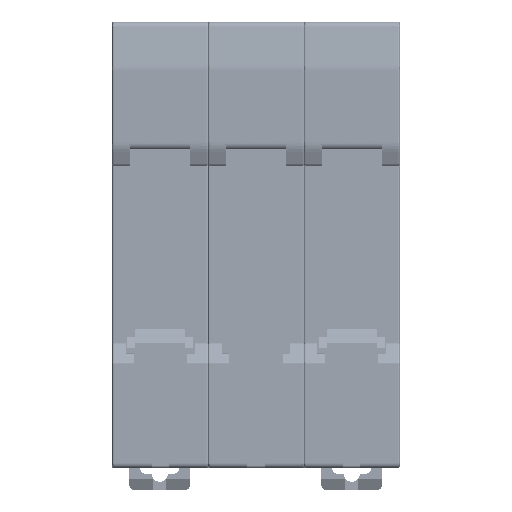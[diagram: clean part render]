
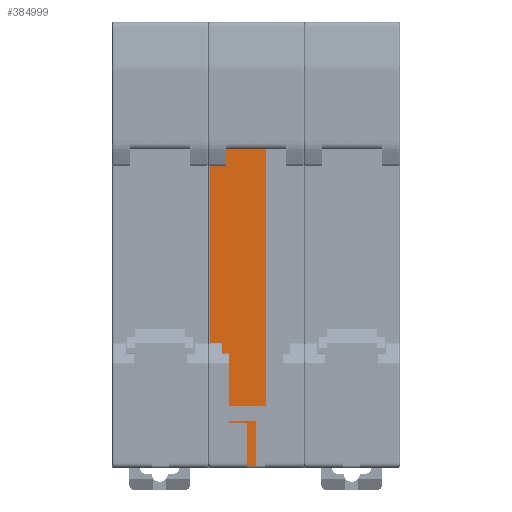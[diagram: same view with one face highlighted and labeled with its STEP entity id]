
A CAD part, left-side view. The second image highlights one B-rep face of the part: STEP entity #384999.
In plain terms, the highlighted planar face has unit normal (-1, 0, 0).
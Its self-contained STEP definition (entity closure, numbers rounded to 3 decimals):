
#5260 = EDGE_CURVE ( 'NONE', #122984, #138243, #166637, .T. ) ;
#7498 = DIRECTION ( 'NONE',  ( 0., 1., 0. ) ) ;
#12509 = ORIENTED_EDGE ( 'NONE', *, *, #206382, .F. ) ;
#12949 = CARTESIAN_POINT ( 'NONE',  ( 5.5, 32.1, 8.9 ) ) ;
#13615 = CARTESIAN_POINT ( 'NONE',  ( 5.5, 33.5, 12.25 ) ) ;
#18663 = CARTESIAN_POINT ( 'NONE',  ( 5.5, 32.4, 15.4 ) ) ;
#18811 = CARTESIAN_POINT ( 'NONE',  ( 5.5, 24.3, 10.5 ) ) ;
#19107 = LINE ( 'NONE', #55439, #162728 ) ;
#24347 = CARTESIAN_POINT ( 'NONE',  ( 5.5, 32.1, -0.5 ) ) ;
#28159 = ORIENTED_EDGE ( 'NONE', *, *, #5260, .F. ) ;
#28481 = CARTESIAN_POINT ( 'NONE',  ( 5.5, 32.1, 40. ) ) ;
#32769 = EDGE_CURVE ( 'NONE', #166031, #363314, #219196, .T. ) ;
#34618 = CARTESIAN_POINT ( 'NONE',  ( 5.5, 35., 22. ) ) ;
#38339 = ORIENTED_EDGE ( 'NONE', *, *, #160959, .F. ) ;
#39033 = LINE ( 'NONE', #158600, #281306 ) ;
#41282 = LINE ( 'NONE', #164834, #91829 ) ;
#46443 = CARTESIAN_POINT ( 'NONE',  ( 5.5, 34.6, 57.6 ) ) ;
#47387 = VECTOR ( 'NONE', #7498, 1000. ) ;
#47654 = EDGE_CURVE ( 'NONE', #222955, #356659, #304240, .T. ) ;
#50056 = VERTEX_POINT ( 'NONE', #218806 ) ;
#55439 = CARTESIAN_POINT ( 'NONE',  ( 5.5, 35., 10.5 ) ) ;
#64079 = CARTESIAN_POINT ( 'NONE',  ( 5.5, 35., 57.6 ) ) ;
#64849 = DIRECTION ( 'NONE',  ( 0., 0., -1. ) ) ;
#65345 = CARTESIAN_POINT ( 'NONE',  ( 5.5, 26.1, 40. ) ) ;
#66345 = CARTESIAN_POINT ( 'NONE',  ( 5.5, 57.843, -0.5 ) ) ;
#69468 = DIRECTION ( 'NONE',  ( 0., 0., 1. ) ) ;
#70731 = DIRECTION ( 'NONE',  ( 0., 0., 1. ) ) ;
#75525 = DIRECTION ( 'NONE',  ( 0., 0., 1. ) ) ;
#86373 = ORIENTED_EDGE ( 'NONE', *, *, #47654, .T. ) ;
#88454 = ORIENTED_EDGE ( 'NONE', *, *, #188753, .F. ) ;
#91789 = DIRECTION ( 'NONE',  ( 0., 0., 1. ) ) ;
#91829 = VECTOR ( 'NONE', #258104, 1000. ) ;
#96146 = CARTESIAN_POINT ( 'NONE',  ( 5.5, 24.3, 21.4 ) ) ;
#96685 = LINE ( 'NONE', #220148, #282606 ) ;
#100223 = ORIENTED_EDGE ( 'NONE', *, *, #360778, .F. ) ;
#100833 = ORIENTED_EDGE ( 'NONE', *, *, #170610, .F. ) ;
#102035 = CARTESIAN_POINT ( 'NONE',  ( 5.5, 26.1, -0.5 ) ) ;
#103529 = ORIENTED_EDGE ( 'NONE', *, *, #315588, .F. ) ;
#117177 = CARTESIAN_POINT ( 'NONE',  ( 5.5, 35., 7.7 ) ) ;
#117996 = CARTESIAN_POINT ( 'NONE',  ( 5.5, 32.4, 18.75 ) ) ;
#122984 = VERTEX_POINT ( 'NONE', #226844 ) ;
#126423 = VERTEX_POINT ( 'NONE', #348496 ) ;
#130363 = CARTESIAN_POINT ( 'NONE',  ( 5.5, 32.4, 22. ) ) ;
#131043 = DIRECTION ( 'NONE',  ( 0., -0.33, 0.944 ) ) ;
#136206 = DIRECTION ( 'NONE',  ( 0., 0.331, 0.944 ) ) ;
#136534 = DIRECTION ( 'NONE',  ( 0., 0.386, 0.923 ) ) ;
#138243 = VERTEX_POINT ( 'NONE', #201664 ) ;
#150328 = EDGE_CURVE ( 'NONE', #210966, #351187, #226651, .T. ) ;
#151647 = ORIENTED_EDGE ( 'NONE', *, *, #224765, .F. ) ;
#154124 = VERTEX_POINT ( 'NONE', #46443 ) ;
#156126 = DIRECTION ( 'NONE',  ( 0., 1., 0. ) ) ;
#158600 = CARTESIAN_POINT ( 'NONE',  ( 5.5, 34.6, 187.895 ) ) ;
#160959 = EDGE_CURVE ( 'NONE', #338060, #363314, #179879, .T. ) ;
#162728 = VECTOR ( 'NONE', #335249, 1000. ) ;
#164834 = CARTESIAN_POINT ( 'NONE',  ( 5.5, 31.1, 21.4 ) ) ;
#166031 = VERTEX_POINT ( 'NONE', #102035 ) ;
#166637 = LINE ( 'NONE', #18663, #390696 ) ;
#170610 = EDGE_CURVE ( 'NONE', #388190, #122984, #96685, .T. ) ;
#172878 = ORIENTED_EDGE ( 'NONE', *, *, #32769, .T. ) ;
#179879 = LINE ( 'NONE', #117177, #339240 ) ;
#184286 = EDGE_CURVE ( 'NONE', #351187, #279603, #312417, .T. ) ;
#187642 = DIRECTION ( 'NONE',  ( 0., -1., 0. ) ) ;
#188753 = EDGE_CURVE ( 'NONE', #279603, #154124, #39033, .T. ) ;
#197084 = PLANE ( 'NONE',  #382853 ) ;
#201664 = CARTESIAN_POINT ( 'NONE',  ( 5.5, 33.4, 18.25 ) ) ;
#203901 = VECTOR ( 'NONE', #70731, 1000. ) ;
#206382 = EDGE_CURVE ( 'NONE', #154124, #50056, #400631, .T. ) ;
#210966 = VERTEX_POINT ( 'NONE', #117996 ) ;
#217736 = CARTESIAN_POINT ( 'NONE',  ( 5.5, 32.1, 8.9 ) ) ;
#218806 = CARTESIAN_POINT ( 'NONE',  ( 5.5, 24.3, 57.6 ) ) ;
#219196 = LINE ( 'NONE', #65345, #315031 ) ;
#220148 = CARTESIAN_POINT ( 'NONE',  ( 5.5, 33.5, 12.25 ) ) ;
#222955 = VERTEX_POINT ( 'NONE', #217736 ) ;
#224765 = EDGE_CURVE ( 'NONE', #138243, #210966, #272487, .T. ) ;
#226651 = LINE ( 'NONE', #314113, #203901 ) ;
#226844 = CARTESIAN_POINT ( 'NONE',  ( 5.5, 32.4, 15.4 ) ) ;
#229959 = EDGE_LOOP ( 'NONE', ( #86373, #100223, #172878, #38339, #103529, #338911, #383568, #12509, #88454, #268799, #261908, #151647, #28159, #100833, #251558 ) ) ;
#232495 = VECTOR ( 'NONE', #156126, 1000. ) ;
#251558 = ORIENTED_EDGE ( 'NONE', *, *, #259145, .F. ) ;
#256726 = LINE ( 'NONE', #66345, #47387 ) ;
#257885 = VECTOR ( 'NONE', #359734, 1000. ) ;
#258104 = DIRECTION ( 'NONE',  ( 0., 0., -1. ) ) ;
#259145 = EDGE_CURVE ( 'NONE', #222955, #388190, #343568, .T. ) ;
#261908 = ORIENTED_EDGE ( 'NONE', *, *, #150328, .F. ) ;
#268799 = ORIENTED_EDGE ( 'NONE', *, *, #184286, .F. ) ;
#272487 = LINE ( 'NONE', #300906, #257885 ) ;
#279603 = VERTEX_POINT ( 'NONE', #295556 ) ;
#281306 = VECTOR ( 'NONE', #69468, 1000. ) ;
#282606 = VECTOR ( 'NONE', #131043, 1000. ) ;
#286137 = EDGE_CURVE ( 'NONE', #368288, #126423, #19107, .T. ) ;
#295556 = CARTESIAN_POINT ( 'NONE',  ( 5.5, 34.6, 22. ) ) ;
#300906 = CARTESIAN_POINT ( 'NONE',  ( 5.5, 33.4, 18.25 ) ) ;
#304240 = LINE ( 'NONE', #28481, #334721 ) ;
#309679 = DIRECTION ( 'NONE',  ( 0., -1., 0. ) ) ;
#312417 = LINE ( 'NONE', #34618, #232495 ) ;
#313055 = DIRECTION ( 'NONE',  ( 0., 0., -1. ) ) ;
#314113 = CARTESIAN_POINT ( 'NONE',  ( 5.5, 32.4, 21.4 ) ) ;
#315031 = VECTOR ( 'NONE', #91789, 1000. ) ;
#315588 = EDGE_CURVE ( 'NONE', #126423, #338060, #41282, .T. ) ;
#320889 = CARTESIAN_POINT ( 'NONE',  ( 5.5, 35., 21.4 ) ) ;
#334721 = VECTOR ( 'NONE', #64849, 1000. ) ;
#335249 = DIRECTION ( 'NONE',  ( 0., 1., 0. ) ) ;
#338060 = VERTEX_POINT ( 'NONE', #390702 ) ;
#338911 = ORIENTED_EDGE ( 'NONE', *, *, #286137, .F. ) ;
#339240 = VECTOR ( 'NONE', #309679, 1000. ) ;
#343568 = LINE ( 'NONE', #12949, #395883 ) ;
#348496 = CARTESIAN_POINT ( 'NONE',  ( 5.5, 31.1, 10.5 ) ) ;
#351187 = VERTEX_POINT ( 'NONE', #130363 ) ;
#353295 = DIRECTION ( 'NONE',  ( 1., 0., 0. ) ) ;
#354524 = CARTESIAN_POINT ( 'NONE',  ( 5.5, 26.1, 7.7 ) ) ;
#356659 = VERTEX_POINT ( 'NONE', #24347 ) ;
#359734 = DIRECTION ( 'NONE',  ( 0., -0.894, 0.447 ) ) ;
#360778 = EDGE_CURVE ( 'NONE', #166031, #356659, #256726, .T. ) ;
#361335 = VECTOR ( 'NONE', #187642, 1000. ) ;
#363314 = VERTEX_POINT ( 'NONE', #354524 ) ;
#368288 = VERTEX_POINT ( 'NONE', #18811 ) ;
#368915 = EDGE_CURVE ( 'NONE', #50056, #368288, #373925, .T. ) ;
#373925 = LINE ( 'NONE', #96146, #381503 ) ;
#381503 = VECTOR ( 'NONE', #313055, 1000. ) ;
#381699 = FACE_OUTER_BOUND ( 'NONE', #229959, .T. ) ;
#382853 = AXIS2_PLACEMENT_3D ( 'NONE', #320889, #353295, #75525 ) ;
#383568 = ORIENTED_EDGE ( 'NONE', *, *, #368915, .F. ) ;
#384999 = ADVANCED_FACE ( 'NONE', ( #381699 ), #197084, .F. ) ;
#388190 = VERTEX_POINT ( 'NONE', #13615 ) ;
#390696 = VECTOR ( 'NONE', #136206, 1000. ) ;
#390702 = CARTESIAN_POINT ( 'NONE',  ( 5.5, 31.1, 7.7 ) ) ;
#395883 = VECTOR ( 'NONE', #136534, 1000. ) ;
#400631 = LINE ( 'NONE', #64079, #361335 ) ;
